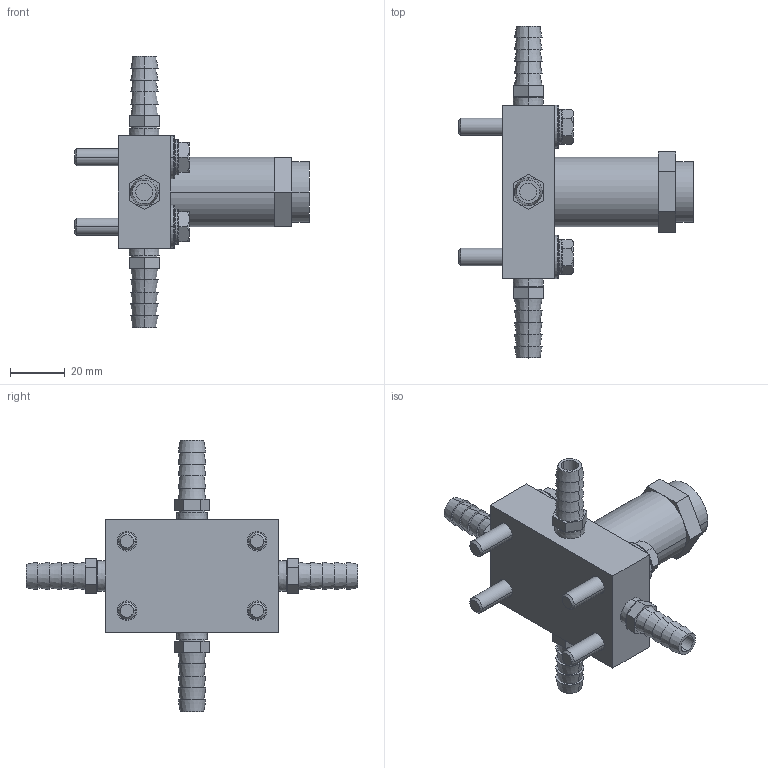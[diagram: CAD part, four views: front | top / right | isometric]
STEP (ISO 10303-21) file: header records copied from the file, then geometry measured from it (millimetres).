
FILE_DESCRIPTION((''),'2;1');
FILE_NAME('ULR2_ASM','2017-08-24T',('jennifer.elliott'),('CenterLine (Windsor) Ltd - Automation Components Division'),'PRO/ENGINEER BY PARAMETRIC TECHNOLOGY CORPORATION, 2015030','PRO/ENGINEER BY PARAMETRIC TECHNOLOGY CORPORATION, 2015030','');
FILE_SCHEMA(('AUTOMOTIVE_DESIGN { 1 0 10303 214 1 1 1 1 }'));
Length unit declared in the file: inch
Products named in the file (18): PRT0654; PRT0655; PRT0656; PRT0657; PRT0658; PRT0659; PRT0660; PRT0661; PRT0662; PRT0663; PRT0664; ASM0007_ASM; PRT0665; PRT0666; PRT0667; PRT0668; TMP_DWG-3DSOLID_95; ULR2_ASM
Assembly tree (17 placements, depth 3):
  ULR2_ASM
    PRT0654
    PRT0655
    PRT0656
    PRT0657
    PRT0658
    PRT0659
    PRT0660
    ASM0007_ASM
      PRT0661
      PRT0662
      PRT0663
      PRT0664
    PRT0665
    PRT0666
    PRT0667
    PRT0668
    TMP_DWG-3DSOLID_95
Bounding box: 85.72 x 121.41 x 99.19 mm (x, y, z)
Volume: 85431.4 mm3; surface area: 31200.5 mm2
Topology: 16 solids, 16 shells, 294 faces, 670 edges, 440 vertices
Faces by surface type: plane 134, cone 80, cylinder 56, torus 24
Entity records: 9834 total; most frequent: CARTESIAN_POINT 1944, DIRECTION 1556, ORIENTED_EDGE 1340, EDGE_CURVE 670, AXIS2_PLACEMENT_3D 641, VERTEX_POINT 440, EDGE_LOOP 350, CIRCLE 308
